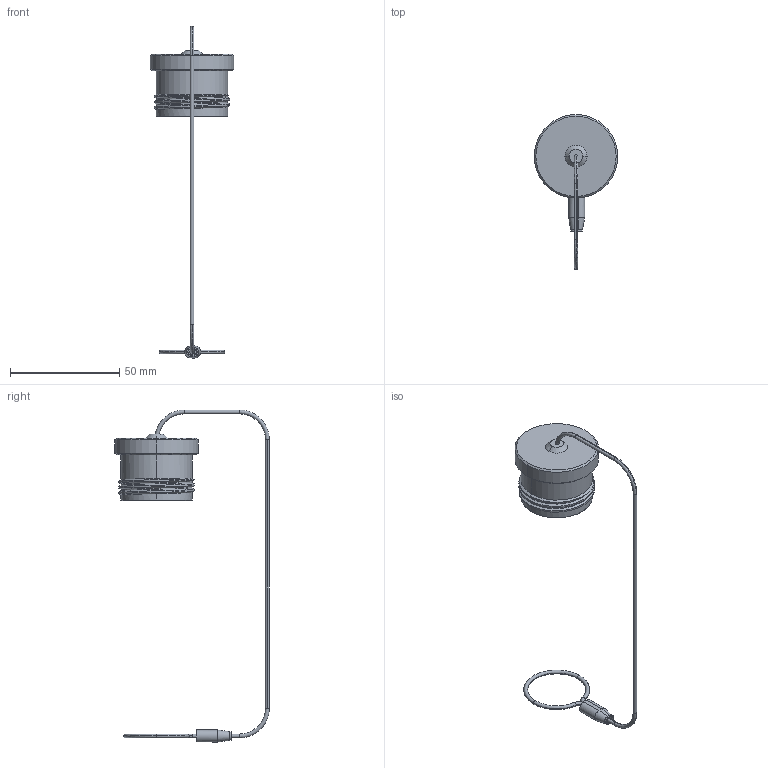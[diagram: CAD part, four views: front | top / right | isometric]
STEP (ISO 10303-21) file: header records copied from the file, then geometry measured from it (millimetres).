
FILE_DESCRIPTION (( 'STEP AP214' ), '1' );
FILE_NAME ('QPLEX3-DCPX.STEP', '2025-04-07T15:17:03', ( '' ), ( '' ), 'SwSTEP 2.0', 'SolidWorks 2024', '' );
FILE_SCHEMA (( 'AUTOMOTIVE_DESIGN' ));
Length unit declared in the file: inch
Products named in the file (1): QPLEX3-DCPX
Bounding box: 38.35 x 70.87 x 152.23 mm (x, y, z)
Volume: 12487.8 mm3; surface area: 10363.3 mm2
Topology: 3 solids, 3 shells, 96 faces, 220 edges, 134 vertices
Faces by surface type: cylinder 40, plane 23, torus 16, cone 11, bspline 6
Entity records: 3682 total; most frequent: CARTESIAN_POINT 1511, DIRECTION 454, ORIENTED_EDGE 440, EDGE_CURVE 220, AXIS2_PLACEMENT_3D 184, VERTEX_POINT 134, EDGE_LOOP 104, ADVANCED_FACE 96
